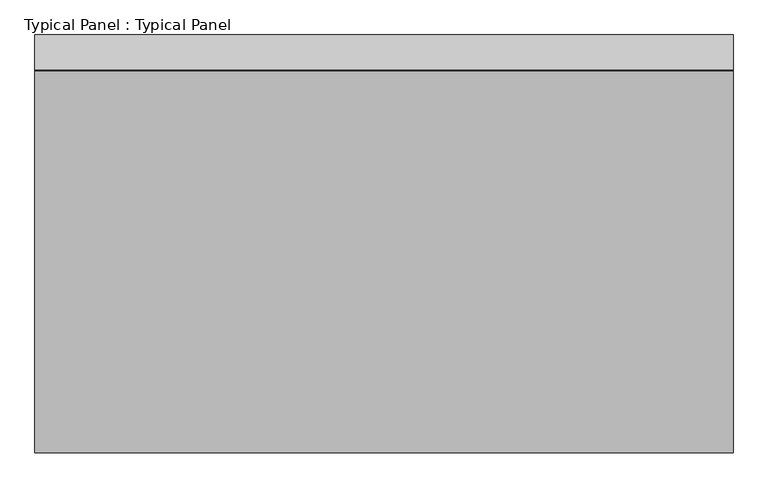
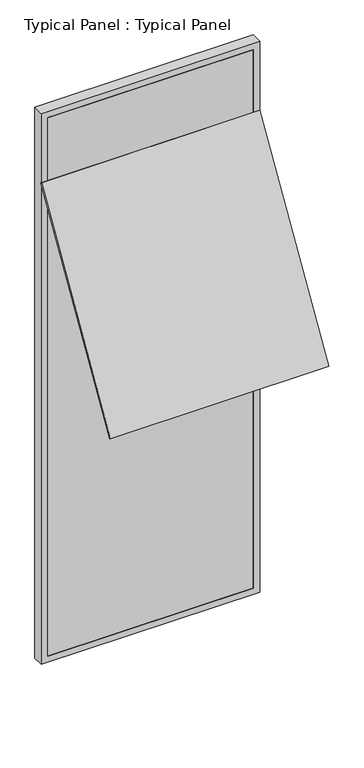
"""IFC4 building model written with IfcOpenShell, lengths in millimetres: plate geometry, Typical Panel : Typical Panel."""

from ifc_helpers import new_model, si_unit, frame, origin, place, context, project, spatial, polyline, outline, extrude, source, transform, mapped, element, save


def typical_panel_typical_panel_bbcebb09(model_context):
    return source(origin(), model_context, "Body", "SweptSolid", [
        extrude(outline(polyline([(0.0, -10.0), (0.0, 0.0), (1500.0, 0.0), (1500.0, -10.0), (0.0, -10.0)])), frame((750.0, -823.9105391, 2137.1039919), z_axis=(0.0, 0.5150380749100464, 0.857167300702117), x_axis=(-1.0, 0.0, 0.0)), (0.0, 0.0, 1.0), 1590.0),
        extrude(outline(polyline([(0.0, -750.0), (0.0, 750.0), (4000.0, 750.0), (4000.0, -750.0), (0.0, -750.0)]), holes=[polyline([(45.0, 705.0), (45.0, -705.0), (3955.0, -705.0), (3955.0, 705.0), (45.0, 705.0)])]), frame((0.0, -1.5797986, 0.0), z_axis=(0.0, 1.0, 0.0), x_axis=(0.0, 0.0, 1.0)), (0.0, 0.0, 1.0), 75.0),
        extrude(outline(polyline([(705.0, -1.5797986), (-705.0, -1.5797986), (-705.0, 13.4202014), (705.0, 13.4202014), (705.0, -1.5797986)])), frame((0.0, 0.0, 45.0), z_axis=(0.0, 0.0, 1.0), x_axis=(1.0, 0.0, 0.0)), (0.0, 0.0, 1.0), 3910.0),
    ])


if __name__ == "__main__":
    model = new_model("IFC4")
    model_context = context("Model", 3, world=origin())
    ifc_project = project(units=[si_unit("LENGTHUNIT", "METRE", prefix="MILLI")], contexts=[model_context])
    site = spatial("IfcSite", under=ifc_project)
    building = spatial("IfcBuilding", under=site)
    placement = place(None, origin())
    typical_panel_typical_panel_shape = typical_panel_typical_panel_bbcebb09(model_context)
    element("IfcPlate", 1, ObjectType="Typical Panel : Typical Panel", at=placement, inside=building, context=model_context, shape_type="MappedRepresentation", body=[
        mapped(typical_panel_typical_panel_shape, transform((0.0, 0.0, 0.0), x_axis=(1.0, 0.0, 0.0), y_axis=(0.0, 1.0, 0.0), z_axis=(0.0, 0.0, 1.0))),
    ])
    save(model, "model.ifc")
